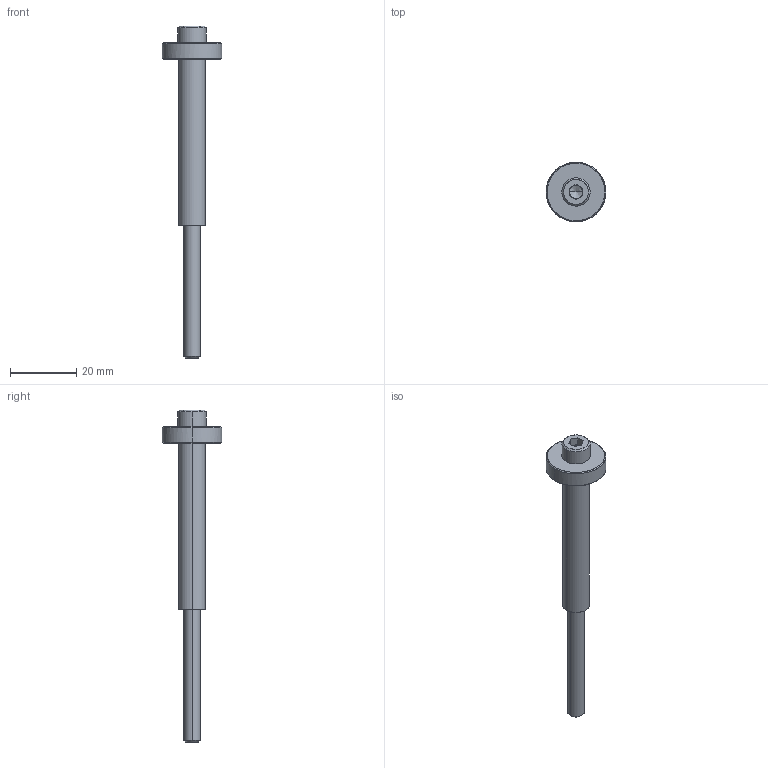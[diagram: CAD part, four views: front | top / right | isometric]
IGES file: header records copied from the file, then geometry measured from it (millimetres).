
Global section: file name: E:\UnigraphicsGraphicData\MISUMI_PRESS-PARTS\IGES\3d_sbrh8-50-95-18_05052_r00.igs; native system: NX V5.0; preprocessor: UGS NX IGES V5.0; author: MISUMI; date: 20110105.162431; units: millimetre
Bounding box: 18 x 17.96 x 100 mm (x, y, z)
Surface area: 4662.8 mm2 (no closed solid volume)
Topology: 0 solids, 0 shells, 45 faces, 252 edges, 250 vertices
Faces by surface type: bspline 45
